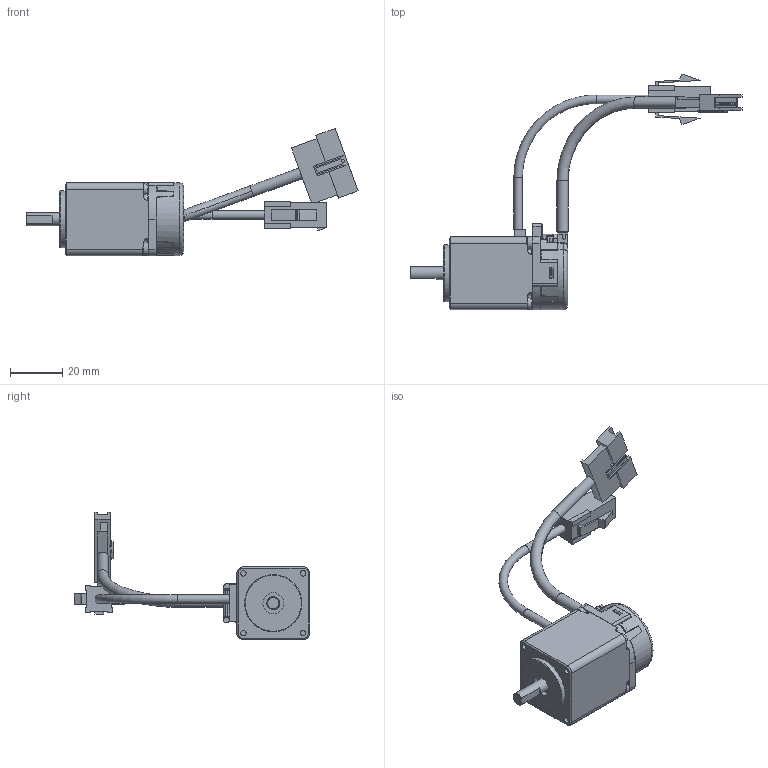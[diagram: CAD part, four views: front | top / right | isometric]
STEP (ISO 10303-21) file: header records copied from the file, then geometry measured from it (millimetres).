
FILE_DESCRIPTION(/* description */ (''),/* implementation_level */ '2;1');
FILE_NAME(/* name */ '\\EMN0D5F01\rp_inventor\RP Mechanical Design\Wiley\Updated Models\eCLM-P111D.stp',/* time_stamp */ '2016-10-27T14:47:47-07:00',/* author */ ('JDB'),/* organization */ ('Parker Hannifin Corp'),/* preprocessor_version */ 'ST-DEVELOPER v15.2',/* originating_system */ 'Autodesk Inventor 2014',/* authorisation */ '');
FILE_SCHEMA (('CONFIG_CONTROL_DESIGN'));
Products named in the file (1): eCLM-P111D_sw
Bounding box: 127.69 x 90.51 x 48.95 mm (x, y, z)
Volume: 33196.2 mm3; surface area: 20502.5 mm2
Topology: 3 solids, 4 shells, 3790 faces, 10753 edges, 7091 vertices
Faces by surface type: plane 3230, cylinder 402, cone 78, bspline 42, torus 34, sphere 4
Full cylindrical faces by diameter (mm): 1 x13, 1.5 x4, 1.55 x2, 1.57 x1, 2.05 x2, 2.1 x4, 2.75 x2, 3.3 x2, 4.3 x2, 5 x2, 6 x2, 8 x2, 10 x1, 22 x1
Entity records: 124071 total; most frequent: CARTESIAN_POINT 25359, ORIENTED_EDGE 21362, DIRECTION 19088, EDGE_CURVE 10683, LINE 9420, VECTOR 9420, VERTEX_POINT 7073, AXIS2_PLACEMENT_3D 4834
